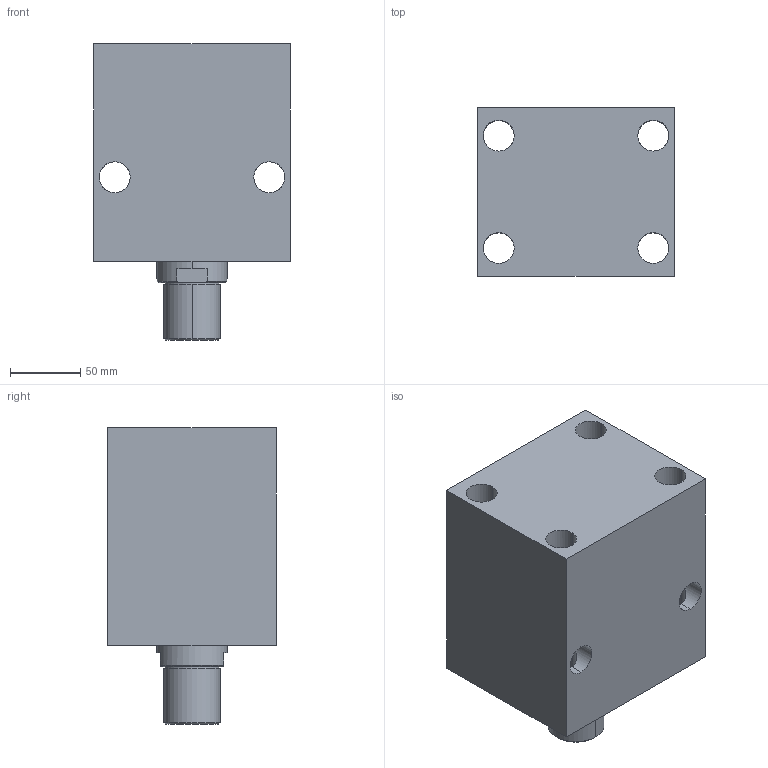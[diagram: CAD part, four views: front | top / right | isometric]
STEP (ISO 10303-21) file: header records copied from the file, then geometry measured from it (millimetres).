
FILE_DESCRIPTION (( 'STEP AP203' ), '1' );
FILE_NAME ('Block cylinder B01C-875M.STEP', '2022-07-09T18:19:25', ( '' ), ( '' ), 'SwSTEP 2.0', 'SolidWorks 2017', '' );
FILE_SCHEMA (( 'CONFIG_CONTROL_DESIGN' ));
Length unit declared in the file: millimetre
Products named in the file (3): Body_ 875M_50ST; Piston _875M; Block cylinder B01C-875M
Assembly tree (2 placements, depth 2):
  Block cylinder B01C-875M
    Body_ 875M_50ST
    Piston _875M
Bounding box: 140 x 120 x 211 mm (x, y, z)
Volume: 2522388.2 mm3; surface area: 202718.1 mm2
Topology: 2 solids, 2 shells, 356 faces, 969 edges, 634 vertices
Faces by surface type: bspline 152, plane 150, cylinder 46, cone 8
Entity records: 17672 total; most frequent: CARTESIAN_POINT 9462, ORIENTED_EDGE 1930, DIRECTION 1111, EDGE_CURVE 965, VERTEX_POINT 634, VECTOR 557, LINE 557, EDGE_LOOP 397
